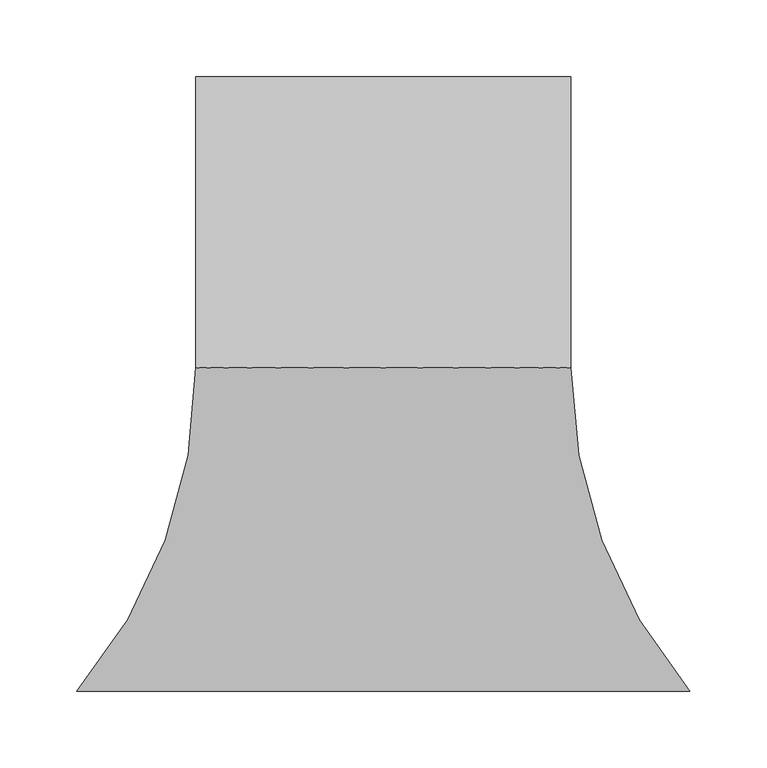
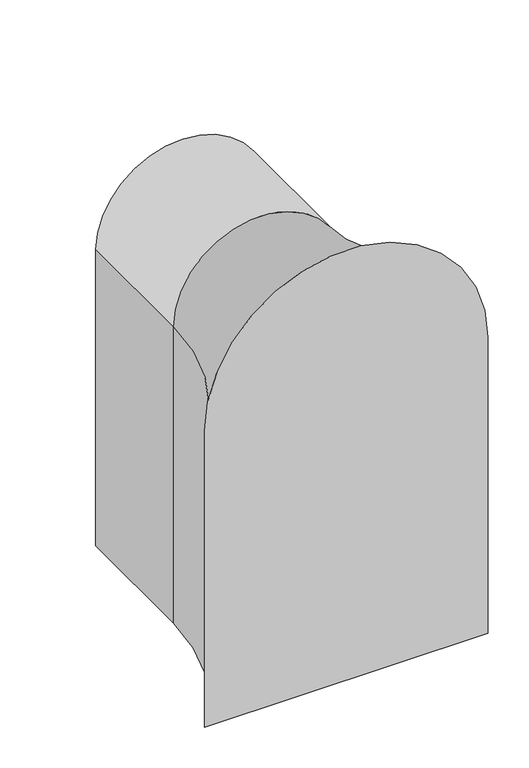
"""IFC4 building model written with IfcOpenShell, lengths in millimetres: flow terminal geometry, DECA_BACIA SANITARIA WISH_P.280_CAIXA ACOPLADA : Bacia Sanitária - Caixa Acoplada Inferior."""

from ifc_helpers import new_model, si_unit, point, frame, origin, place, context, project, spatial, polyline, circle_curve, ellipse_curve, trimmed, source, transform, mapped, element, save
from ifc_brep_helpers import plane_surface, cylinder_surface, revolved_surface, advanced_brep


def flow_terminal_a1eea942(model_context):
    return source(origin(), model_context, "Body", "AdvancedBrep", [
        advanced_brep(
        [(199.2418937, -400.0, 10.0), (199.2418937, -400.0, 450.96476), (-200.0076116, -400.0, 450.96476), (-200.0076116, -400.0, 10.0), (-122.4999955, 0.0, 10.0), (-122.4999955, 0.0, 450.96476), (121.7342775, 0.0, 450.96476), (121.7342775, 0.0, 10.0), (121.7342775, -189.5834351, 10.0), (-122.4999955, -189.5834351, 10.0), (-122.4999955, -189.5834351, 450.96476), (121.7342775, -189.5834351, 450.96476)],
        [
            (0, 1),
            (1, 2, circle_curve(frame((-0.382859, -400.0, 450.96476), z_axis=(0.0, -1.0, 0.0), x_axis=(-1.0, 0.0, 0.0)), 199.6247526)),
            (2, 3),
            (3, 0),
            (4, 5),
            (5, 6, circle_curve(frame((-0.382859, 0.0, 450.96476), z_axis=(0.0, 1.0, 0.0), x_axis=(-1.0, 0.0, 0.0)), 122.1171365)),
            (6, 7),
            (7, 4),
            (7, 8),
            (8, 0, circle_curve(frame((446.1060223, -189.5834351, 10.0), z_axis=(0.0, 0.0, 1.0), x_axis=(-0.7687837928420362, -0.6395087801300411, 0.0)), 324.3717448)),
            (3, 9, circle_curve(frame((-446.8717403, -189.5834351, 10.0), z_axis=(0.0, 0.0, 1.0), x_axis=(0.7687837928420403, -0.6395087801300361, 0.0)), 324.3717448)),
            (9, 4),
            (10, 9),
            (2, 10, circle_curve(frame((-446.8717403, -189.5834351, 450.96476), z_axis=(0.0, 0.0, 1.0), x_axis=(0.7687837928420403, -0.6395087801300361, 0.0)), 324.3717448)),
            (10, 5),
            (1, 11, circle_curve(frame((446.1060223, -189.5834351, 450.96476), z_axis=(0.0, 0.0, -1.0), x_axis=(-0.7687837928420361, -0.639508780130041, 0.0)), 324.3717448)),
            (11, 10, circle_curve(frame((-0.382859, -189.5834351, 450.96476), z_axis=(0.0, -1.0, 0.0), x_axis=(-1.0, 0.0, 0.0)), 122.1171365)),
            (11, 6),
            (8, 11),
        ],
        [
            plane_surface(frame((-0.3828581, -400.0, 232.0448804), z_axis=(0.0, -1.0, 0.0), x_axis=(-1.0, 0.0, 0.0))),
            plane_surface(frame((5.2e-06, 0.0, 229.507364), z_axis=(0.0, 1.0, 0.0), x_axis=(-1.0, 0.0, 0.0))),
            plane_surface(frame((3.5e-06, 0.0, 10.0), z_axis=(0.0, 0.0, -1.0), x_axis=(-1.0, 0.0, 0.0))),
            revolved_surface(polyline([(-197.50000004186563, -397.0220139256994, 10.0), (-197.50000004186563, -397.0220139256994, 450.96476)]), (-446.8717403, -189.5834351, 0.96476), (0.0, 0.0, -1.0)),
            plane_surface(frame((-122.4999955, -189.5834351, 0.96476), z_axis=(-1.0, 0.0, 0.0), x_axis=(0.0, 0.0, 1.0))),
            revolved_surface(trimmed(ellipse_curve(frame((-446.8717403, -189.5834351, 450.96476), z_axis=(0.0, 0.0, -1.0), x_axis=(0.7687837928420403, -0.6395087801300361, 0.0)), 324.3717448, 324.3717448), [point((-122.4999955, -189.5834351, 450.96476))], [point((-202.705754, -403.125, 450.96476))], True, "CARTESIAN"), (-0.382859, -400.625, 450.96476), (0.0, -1.0, 0.0)),
            cylinder_surface(frame((-0.382859, -400.625, 450.96476), z_axis=(0.0, -1.0, 0.0), x_axis=(-1.0, 0.0, 0.0)), 122.1171365),
            revolved_surface(polyline([(196.73428204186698, -397.022013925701, 450.96476), (196.73428204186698, -397.022013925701, 9.999999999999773)]), (446.1060223, -189.5834351, 450.96476), (0.0, 0.0, 1.0000000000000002)),
            plane_surface(frame((121.7342775, -189.5834351, 450.96476), z_axis=(1.0, 0.0, 0.0), x_axis=(0.0, 0.0, -1.0))),
        ],
        [
            (0, [[1, 2, 3, 4]]),
            (1, [[5, 6, 7, 8]]),
            (2, [[9, 10, -4, 11, 12, -8]]),
            (3, [[13, -11, -3, 14]]),
            (4, [[-5, -12, -13, 15]]),
            (5, [[-14, -2, 16, 17]]),
            (6, [[18, -6, -15, -17]]),
            (7, [[-1, -10, 19, -16]]),
            (8, [[-19, -9, -7, -18]]),
        ],
    ),
    ])


if __name__ == "__main__":
    model = new_model("IFC4")
    model_context = context("Model", 3, world=origin())
    ifc_project = project(units=[si_unit("LENGTHUNIT", "METRE", prefix="MILLI")], contexts=[model_context])
    site = spatial("IfcSite", under=ifc_project)
    building = spatial("IfcBuilding", under=site)
    placement = place(None, origin())
    flow_terminal_shape = flow_terminal_a1eea942(model_context)
    element("IfcFlowTerminal", 1, ObjectType="DECA_BACIA SANITARIA WISH_P.280_CAIXA ACOPLADA : Bacia Sanitária - Caixa Acoplada Inferior", at=placement, inside=building, context=model_context, shape_type="MappedRepresentation", body=[
        mapped(flow_terminal_shape, transform((0.0, 0.0, 0.0), x_axis=(1.0, 0.0, 0.0), y_axis=(0.0, 1.0, 0.0), z_axis=(0.0, 0.0, 1.0))),
    ])
    save(model, "model.ifc")
